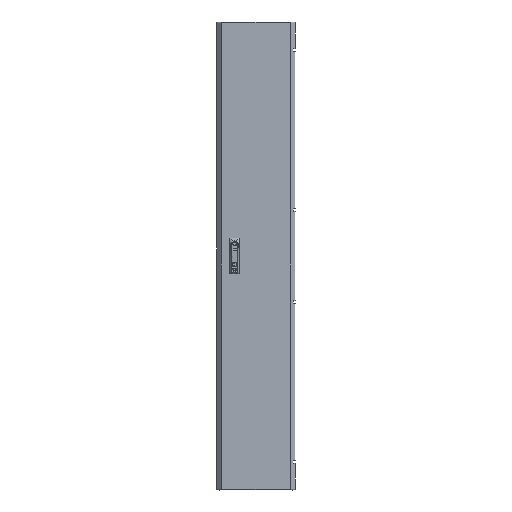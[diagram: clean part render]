
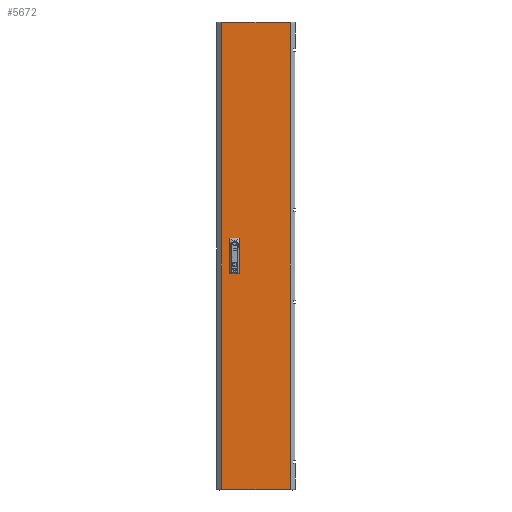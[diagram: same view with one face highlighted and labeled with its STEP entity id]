
A CAD part, top view. The second image highlights one B-rep face of the part: STEP entity #5672.
In plain terms, the highlighted planar face has unit normal (0, 0, 1).
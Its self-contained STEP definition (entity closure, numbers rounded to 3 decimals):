
#348 = LINE ( 'NONE', #73593, #55226 ) ;
#558 = VECTOR ( 'NONE', #136507, 1000. ) ;
#3053 = CARTESIAN_POINT ( 'NONE',  ( -92.5, -62.5, 0. ) ) ;
#3608 = CARTESIAN_POINT ( 'NONE',  ( -67.5, 12.5, 0. ) ) ;
#5672 = ADVANCED_FACE ( 'NONE', ( #70133, #39445, #92459 ), #51960, .F. ) ;
#5851 = VERTEX_POINT ( 'NONE', #99340 ) ;
#11580 = CARTESIAN_POINT ( 'NONE',  ( -127.875, 869.5, 0. ) ) ;
#12319 = DIRECTION ( 'NONE',  ( 1., 0., 0. ) ) ;
#14693 = CARTESIAN_POINT ( 'NONE',  ( -127.875, -869.5, 0. ) ) ;
#16317 = CARTESIAN_POINT ( 'NONE',  ( -67.5, -62.5, 0. ) ) ;
#17363 = VECTOR ( 'NONE', #76297, 1000. ) ;
#18429 = EDGE_CURVE ( 'NONE', #37646, #35627, #120554, .T. ) ;
#18611 = VERTEX_POINT ( 'NONE', #112849 ) ;
#20027 = EDGE_CURVE ( 'NONE', #18611, #5851, #100011, .T. ) ;
#20157 = CARTESIAN_POINT ( 'NONE',  ( -127.875, -869.5, 0. ) ) ;
#21321 = VECTOR ( 'NONE', #105306, 1000. ) ;
#24514 = LINE ( 'NONE', #3608, #118521 ) ;
#24821 = EDGE_LOOP ( 'NONE', ( #70465, #120601, #113009, #118111 ) ) ;
#25544 = CARTESIAN_POINT ( 'NONE',  ( -67.5, 62.5, 0. ) ) ;
#27015 = VERTEX_POINT ( 'NONE', #67941 ) ;
#28668 = EDGE_CURVE ( 'NONE', #117282, #37646, #73010, .T. ) ;
#30374 = CARTESIAN_POINT ( 'NONE',  ( 0., 0., 0. ) ) ;
#30714 = LINE ( 'NONE', #128398, #90003 ) ;
#30944 = EDGE_CURVE ( 'NONE', #5851, #121026, #53474, .T. ) ;
#32397 = CARTESIAN_POINT ( 'NONE',  ( -92.5, 12.5, 0. ) ) ;
#34149 = ORIENTED_EDGE ( 'NONE', *, *, #129277, .F. ) ;
#35034 = CARTESIAN_POINT ( 'NONE',  ( -92.5, -12.5, 0. ) ) ;
#35511 = CARTESIAN_POINT ( 'NONE',  ( 127.875, -869.5, 0. ) ) ;
#35627 = VERTEX_POINT ( 'NONE', #14693 ) ;
#37646 = VERTEX_POINT ( 'NONE', #86324 ) ;
#37946 = DIRECTION ( 'NONE',  ( 0., 1., 0. ) ) ;
#39416 = CARTESIAN_POINT ( 'NONE',  ( -67.5, 12.5, 0. ) ) ;
#39445 = FACE_BOUND ( 'NONE', #24821, .T. ) ;
#41469 = DIRECTION ( 'NONE',  ( 0., -1., 0. ) ) ;
#42163 = LINE ( 'NONE', #32397, #69339 ) ;
#43015 = ORIENTED_EDGE ( 'NONE', *, *, #110742, .F. ) ;
#43623 = ORIENTED_EDGE ( 'NONE', *, *, #61922, .T. ) ;
#45847 = CARTESIAN_POINT ( 'NONE',  ( -92.5, 62.5, 0. ) ) ;
#46105 = DIRECTION ( 'NONE',  ( 0., 1., 0. ) ) ;
#51960 = PLANE ( 'NONE',  #119657 ) ;
#53474 = LINE ( 'NONE', #65278, #67697 ) ;
#53728 = ORIENTED_EDGE ( 'NONE', *, *, #67389, .T. ) ;
#55226 = VECTOR ( 'NONE', #83365, 1000. ) ;
#58015 = LINE ( 'NONE', #35034, #76876 ) ;
#59671 = DIRECTION ( 'NONE',  ( 0., 0., -1. ) ) ;
#59859 = ORIENTED_EDGE ( 'NONE', *, *, #28668, .T. ) ;
#60215 = EDGE_CURVE ( 'NONE', #100181, #18611, #58015, .T. ) ;
#61922 = EDGE_CURVE ( 'NONE', #35627, #64634, #96179, .T. ) ;
#64634 = VERTEX_POINT ( 'NONE', #35511 ) ;
#65278 = CARTESIAN_POINT ( 'NONE',  ( -92.5, -62.5, 0. ) ) ;
#67389 = EDGE_CURVE ( 'NONE', #64634, #117282, #348, .T. ) ;
#67697 = VECTOR ( 'NONE', #12319, 1000. ) ;
#67941 = CARTESIAN_POINT ( 'NONE',  ( -92.5, 62.5, 0. ) ) ;
#69339 = VECTOR ( 'NONE', #41469, 1000. ) ;
#70133 = FACE_BOUND ( 'NONE', #93312, .T. ) ;
#70176 = EDGE_CURVE ( 'NONE', #121026, #100181, #124491, .T. ) ;
#70465 = ORIENTED_EDGE ( 'NONE', *, *, #60215, .F. ) ;
#70833 = DIRECTION ( 'NONE',  ( -1., 0., 0. ) ) ;
#73010 = LINE ( 'NONE', #11580, #558 ) ;
#73593 = CARTESIAN_POINT ( 'NONE',  ( 127.875, -869.5, 0. ) ) ;
#73981 = ORIENTED_EDGE ( 'NONE', *, *, #18429, .T. ) ;
#74434 = CARTESIAN_POINT ( 'NONE',  ( -67.5, -62.5, 0. ) ) ;
#76297 = DIRECTION ( 'NONE',  ( 0., -1., 0. ) ) ;
#76876 = VECTOR ( 'NONE', #88063, 1000. ) ;
#80429 = EDGE_CURVE ( 'NONE', #27015, #88764, #42163, .T. ) ;
#83365 = DIRECTION ( 'NONE',  ( 0., 1., 0. ) ) ;
#84006 = EDGE_LOOP ( 'NONE', ( #53728, #59859, #73981, #43623 ) ) ;
#84033 = VECTOR ( 'NONE', #121255, 1000. ) ;
#84426 = DIRECTION ( 'NONE',  ( 1., 0., 0. ) ) ;
#85886 = ORIENTED_EDGE ( 'NONE', *, *, #80429, .F. ) ;
#86324 = CARTESIAN_POINT ( 'NONE',  ( -127.875, 869.5, 0. ) ) ;
#87407 = VERTEX_POINT ( 'NONE', #25544 ) ;
#88063 = DIRECTION ( 'NONE',  ( -1., 0., 0. ) ) ;
#88429 = DIRECTION ( 'NONE',  ( -1., 0., 0. ) ) ;
#88764 = VERTEX_POINT ( 'NONE', #129880 ) ;
#89116 = LINE ( 'NONE', #45847, #96811 ) ;
#90003 = VECTOR ( 'NONE', #84426, 1000. ) ;
#92459 = FACE_OUTER_BOUND ( 'NONE', #84006, .T. ) ;
#92969 = CARTESIAN_POINT ( 'NONE',  ( 127.875, 869.5, 0. ) ) ;
#93312 = EDGE_LOOP ( 'NONE', ( #43015, #34149, #126093, #85886 ) ) ;
#96179 = LINE ( 'NONE', #20157, #21321 ) ;
#96811 = VECTOR ( 'NONE', #88429, 1000. ) ;
#99340 = CARTESIAN_POINT ( 'NONE',  ( -92.5, -62.5, 0. ) ) ;
#100011 = LINE ( 'NONE', #3053, #17363 ) ;
#100181 = VERTEX_POINT ( 'NONE', #102603 ) ;
#102603 = CARTESIAN_POINT ( 'NONE',  ( -67.5, -12.5, 0. ) ) ;
#105306 = DIRECTION ( 'NONE',  ( 1., 0., 0. ) ) ;
#106615 = VERTEX_POINT ( 'NONE', #39416 ) ;
#109218 = VECTOR ( 'NONE', #37946, 1000. ) ;
#110742 = EDGE_CURVE ( 'NONE', #87407, #27015, #89116, .T. ) ;
#111867 = EDGE_CURVE ( 'NONE', #88764, #106615, #30714, .T. ) ;
#112849 = CARTESIAN_POINT ( 'NONE',  ( -92.5, -12.5, 0. ) ) ;
#113009 = ORIENTED_EDGE ( 'NONE', *, *, #30944, .F. ) ;
#117282 = VERTEX_POINT ( 'NONE', #92969 ) ;
#118111 = ORIENTED_EDGE ( 'NONE', *, *, #20027, .F. ) ;
#118521 = VECTOR ( 'NONE', #46105, 1000. ) ;
#119657 = AXIS2_PLACEMENT_3D ( 'NONE', #30374, #59671, #70833 ) ;
#120554 = LINE ( 'NONE', #131050, #84033 ) ;
#120601 = ORIENTED_EDGE ( 'NONE', *, *, #70176, .F. ) ;
#121026 = VERTEX_POINT ( 'NONE', #74434 ) ;
#121255 = DIRECTION ( 'NONE',  ( 0., -1., 0. ) ) ;
#124491 = LINE ( 'NONE', #16317, #109218 ) ;
#126093 = ORIENTED_EDGE ( 'NONE', *, *, #111867, .F. ) ;
#128398 = CARTESIAN_POINT ( 'NONE',  ( -92.5, 12.5, 0. ) ) ;
#129277 = EDGE_CURVE ( 'NONE', #106615, #87407, #24514, .T. ) ;
#129880 = CARTESIAN_POINT ( 'NONE',  ( -92.5, 12.5, 0. ) ) ;
#131050 = CARTESIAN_POINT ( 'NONE',  ( -127.875, -869.5, 0. ) ) ;
#136507 = DIRECTION ( 'NONE',  ( -1., 0., 0. ) ) ;
